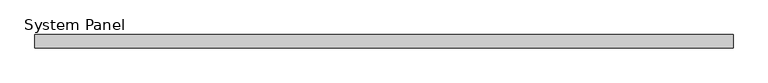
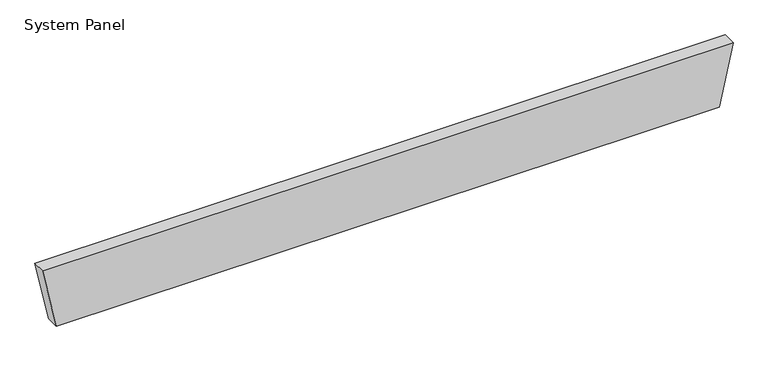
"""IFC4 building model written with IfcOpenShell, lengths in millimetres: plate geometry, System Panel : Equitilt_250mm_Plain_Surfmist."""

from ifc_helpers import new_model, si_unit, frame, origin, place, context, project, spatial, polyline, outline, extrude, source, transform, mapped, element, save


def system_panel_d03f2665(model_context):
    return source(origin(), model_context, "Body", "SweptSolid", [
        extrude(outline(polyline([(0.0, -6260.8716619), (0.0, 6260.8716619), (1200.0, 6521.7433237), (1200.0, -6521.7433237), (0.0, -6260.8716619)])), frame((0.0, -250.0, 0.0), z_axis=(0.0, 1.0, 0.0), x_axis=(0.0, 0.0, 1.0)), (0.0, 0.0, 1.0), 250.0),
    ])


if __name__ == "__main__":
    model = new_model("IFC4")
    model_context = context("Model", 3, world=origin())
    ifc_project = project(units=[si_unit("LENGTHUNIT", "METRE", prefix="MILLI")], contexts=[model_context])
    site = spatial("IfcSite", under=ifc_project)
    building = spatial("IfcBuilding", under=site)
    placement = place(None, origin())
    system_panel_shape = system_panel_d03f2665(model_context)
    element("IfcPlate", 1, ObjectType="System Panel : Equitilt_250mm_Plain_Surfmist", at=placement, inside=building, context=model_context, shape_type="MappedRepresentation", body=[
        mapped(system_panel_shape, transform((0.0, 0.0, 0.0), x_axis=(1.0, 0.0, 0.0), y_axis=(0.0, 1.0, 0.0), z_axis=(0.0, 0.0, 1.0))),
    ])
    save(model, "model.ifc")
